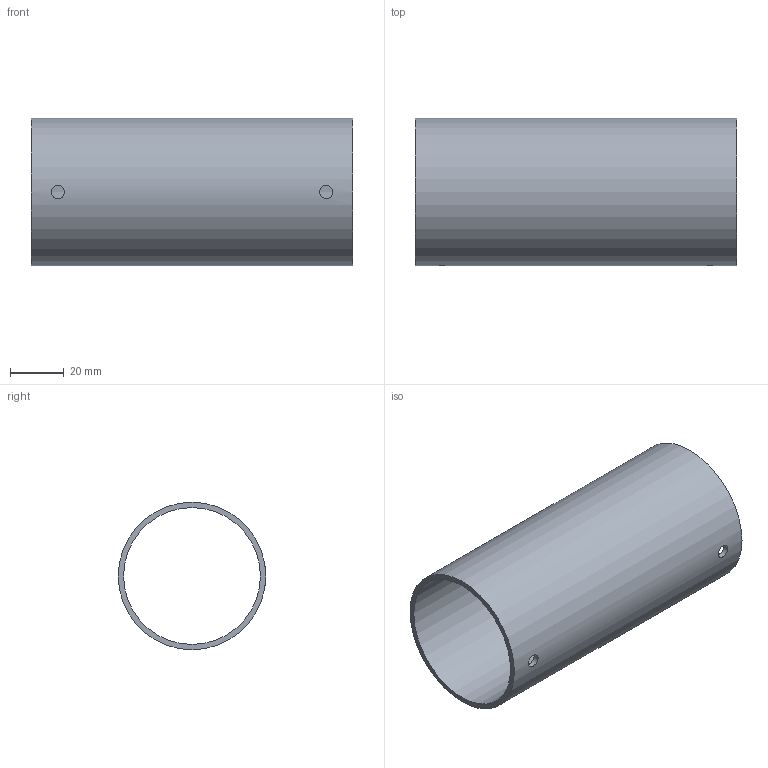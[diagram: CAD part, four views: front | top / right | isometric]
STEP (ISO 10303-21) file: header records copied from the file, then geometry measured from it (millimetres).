
FILE_DESCRIPTION(/* description */ (''),/* implementation_level */ '2;1');
FILE_NAME(/* name */ 'Pos117-Precisie buis 55x2-Aluminium-7st',/* time_stamp */ '2024-08-06T11:49:42+02:00',/* author */ (''),/* organization */ (''),/* preprocessor_version */ 'ST-DEVELOPER v16.5',/* originating_system */ 'HiCAD 2024 2901.2 Build 361',/* authorisation */ '');
FILE_SCHEMA (('AUTOMOTIVE_DESIGN { 1 0 10303 214 1 1 1 1 }'));
Length unit declared in the file: millimetre
Products named in the file (1): Pos117-Precisie buis 55x2-Aluminium-7st
Bounding box: 120 x 55 x 55 mm (x, y, z)
Volume: 39882.4 mm3; surface area: 40611.4 mm2
Topology: 1 solids, 1 shells, 6 faces, 20 edges, 16 vertices
Faces by surface type: cylinder 4, plane 2
Full cylindrical faces by diameter (mm): 5 x2, 51 x1, 55 x1
Entity records: 2856 total; most frequent: CARTESIAN_POINT 2512, PRESENTATION_STYLE_ASSIGNMENT 33, COLOUR_RGB 33, DRAUGHTING_PRE_DEFINED_CURVE_FONT 32, CURVE_STYLE 32, OVER_RIDING_STYLED_ITEM 32, ORIENTED_EDGE 32, DIRECTION 28
